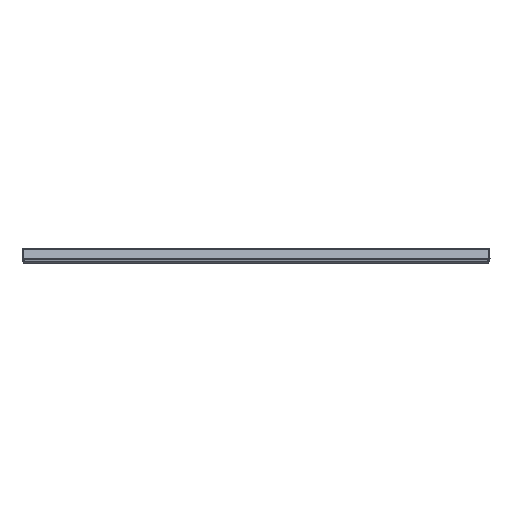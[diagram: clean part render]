
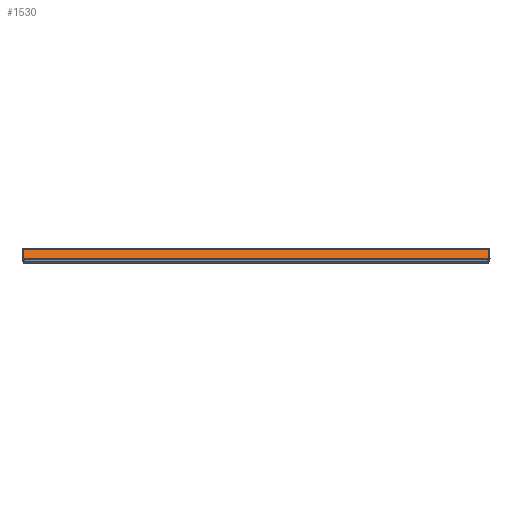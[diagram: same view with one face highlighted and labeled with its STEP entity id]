
A CAD part, left-side view. The second image highlights one B-rep face of the part: STEP entity #1530.
In plain terms, the highlighted planar face has unit normal (-0.966, 0, 0.259).
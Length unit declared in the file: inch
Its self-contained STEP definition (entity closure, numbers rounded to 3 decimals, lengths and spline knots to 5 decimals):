
#800 = FACE_OUTER_BOUND ( 'NONE', #2396, .T. ) ;
#902 = EDGE_CURVE ( 'NONE', #3441, #3464, #2460, .T. ) ;
#904 = EDGE_CURVE ( 'NONE', #3454, #3476, #2575, .T. ) ;
#909 = EDGE_CURVE ( 'NONE', #3441, #3476, #2567, .T. ) ;
#917 = EDGE_CURVE ( 'NONE', #3464, #3454, #2556, .T. ) ;
#966 = CARTESIAN_POINT ( 'NONE',  ( -37.40443, -12.678, 0.812 ) ) ;
#972 = CARTESIAN_POINT ( 'NONE',  ( -37.55218, 12.678, 0.26058 ) ) ;
#984 = CARTESIAN_POINT ( 'NONE',  ( -37.55218, -12.678, 0.26058 ) ) ;
#1007 = CARTESIAN_POINT ( 'NONE',  ( -37.40443, 12.678, 0.812 ) ) ;
#1066 = DIRECTION ( 'NONE',  ( -0.259, 0., -0.966 ) ) ;
#1074 = DIRECTION ( 'NONE',  ( 0.966, 0., -0.259 ) ) ;
#1090 = PLANE ( 'NONE',  #1684 ) ;
#1099 = CARTESIAN_POINT ( 'NONE',  ( -37.622, 12.736, 0. ) ) ;
#1530 = ADVANCED_FACE ( 'NONE', ( #800 ), #1090, .F. ) ;
#1684 = AXIS2_PLACEMENT_3D ( 'NONE', #1099, #1074, #1066 ) ;
#1933 = ORIENTED_EDGE ( 'NONE', *, *, #909, .F. ) ;
#1934 = ORIENTED_EDGE ( 'NONE', *, *, #904, .T. ) ;
#1936 = ORIENTED_EDGE ( 'NONE', *, *, #917, .T. ) ;
#1940 = ORIENTED_EDGE ( 'NONE', *, *, #902, .T. ) ;
#2396 = EDGE_LOOP ( 'NONE', ( #1940, #1936, #1934, #1933 ) ) ;
#2460 = LINE ( 'NONE', #2700, #2576 ) ;
#2551 = VECTOR ( 'NONE', #2605, 39.37008 ) ;
#2556 = LINE ( 'NONE', #2725, #2551 ) ;
#2567 = LINE ( 'NONE', #2699, #2574 ) ;
#2574 = VECTOR ( 'NONE', #2710, 39.37008 ) ;
#2575 = LINE ( 'NONE', #2729, #2577 ) ;
#2576 = VECTOR ( 'NONE', #2698, 39.37008 ) ;
#2577 = VECTOR ( 'NONE', #2712, 39.37008 ) ;
#2605 = DIRECTION ( 'NONE',  ( 0., -1., 0. ) ) ;
#2698 = DIRECTION ( 'NONE',  ( -0.259, 0., -0.966 ) ) ;
#2699 = CARTESIAN_POINT ( 'NONE',  ( -37.40443, 12.736, 0.812 ) ) ;
#2700 = CARTESIAN_POINT ( 'NONE',  ( -37.622, 12.678, 0. ) ) ;
#2710 = DIRECTION ( 'NONE',  ( 0., -1., 0. ) ) ;
#2712 = DIRECTION ( 'NONE',  ( 0.259, 0., 0.966 ) ) ;
#2725 = CARTESIAN_POINT ( 'NONE',  ( -37.55218, 12.736, 0.26058 ) ) ;
#2729 = CARTESIAN_POINT ( 'NONE',  ( -37.622, -12.678, 0. ) ) ;
#3441 = VERTEX_POINT ( 'NONE', #1007 ) ;
#3454 = VERTEX_POINT ( 'NONE', #984 ) ;
#3464 = VERTEX_POINT ( 'NONE', #972 ) ;
#3476 = VERTEX_POINT ( 'NONE', #966 ) ;
